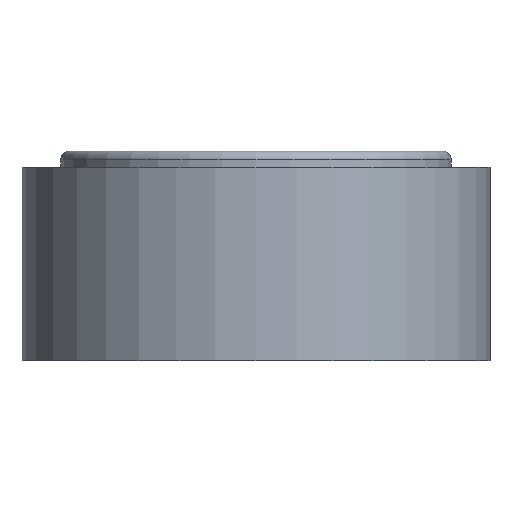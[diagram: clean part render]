
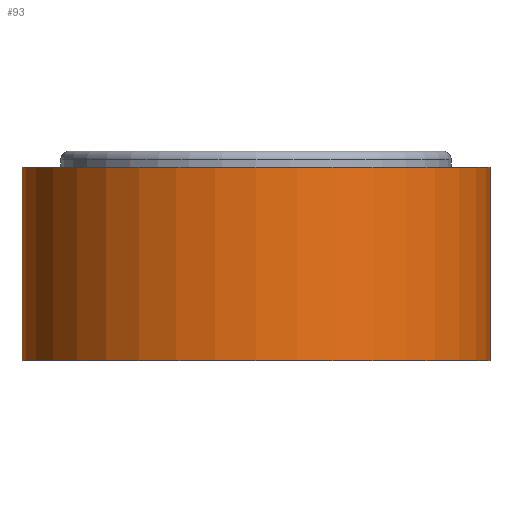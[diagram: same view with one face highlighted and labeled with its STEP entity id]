
A CAD part, front view. The second image highlights one B-rep face of the part: STEP entity #93.
In plain terms, the highlighted cylindrical face has radius 37.45 mm (diameter 74.9 mm), a full revolution.
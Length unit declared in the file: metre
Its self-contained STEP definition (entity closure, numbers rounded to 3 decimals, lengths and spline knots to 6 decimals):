
#18=ORIENTED_EDGE('',*,*,#34,.T.);
#19=ORIENTED_EDGE('',*,*,#35,.F.);
#34=EDGE_CURVE('',#42,#42,#50,.F.);
#35=EDGE_CURVE('',#43,#43,#51,.F.);
#42=VERTEX_POINT('',#171);
#43=VERTEX_POINT('',#173);
#50=CIRCLE('',#116,0.03745);
#51=CIRCLE('',#117,0.03745);
#58=EDGE_LOOP('',(#18));
#59=EDGE_LOOP('',(#19));
#74=FACE_BOUND('',#58,.T.);
#75=FACE_BOUND('',#59,.T.);
#90=CYLINDRICAL_SURFACE('',#115,0.03745);
#93=ADVANCED_FACE('',(#74,#75),#90,.T.);
#115=AXIS2_PLACEMENT_3D('',#169,#134,#135);
#116=AXIS2_PLACEMENT_3D('',#170,#136,#137);
#117=AXIS2_PLACEMENT_3D('',#172,#138,#139);
#134=DIRECTION('',(0.,0.,1.));
#135=DIRECTION('',(1.,0.,0.));
#136=DIRECTION('',(0.,0.,-1.));
#137=DIRECTION('',(-1.,0.,0.));
#138=DIRECTION('',(0.,0.,-1.));
#139=DIRECTION('',(-1.,0.,0.));
#169=CARTESIAN_POINT('',(0.,0.,-0.0488));
#170=CARTESIAN_POINT('',(0.,0.,-0.0488));
#171=CARTESIAN_POINT('',(-0.03745,0.,-0.0488));
#172=CARTESIAN_POINT('',(0.,0.,-0.0178));
#173=CARTESIAN_POINT('',(-0.03745,0.,-0.0178));
